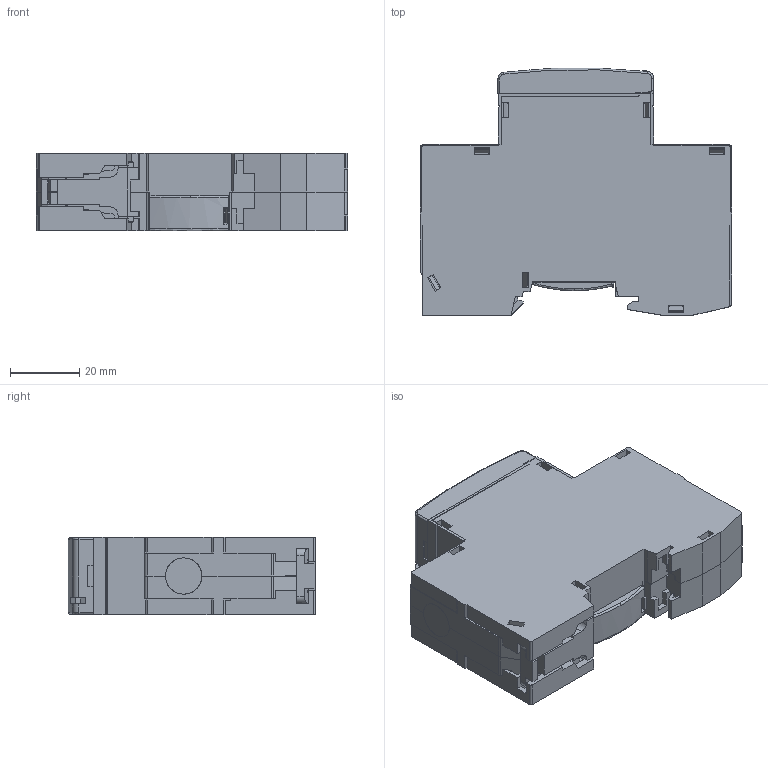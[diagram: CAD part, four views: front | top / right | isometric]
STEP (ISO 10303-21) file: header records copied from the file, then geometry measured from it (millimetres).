
FILE_DESCRIPTION (( 'STEP AP203' ), '1' );
FILE_NAME ('DF-P9.STEP', '2021-07-07T06:56:28', ( '' ), ( '' ), 'SwSTEP 2.0', 'SolidWorks 2018', '' );
FILE_SCHEMA (( 'CONFIG_CONTROL_DESIGN' ));
Length unit declared in the file: millimetre
Products named in the file (13): 8LD.253.283.STEP; 8LD.143.1054.STEP; 5LD.421.0009_________.STEP; 8LD.005.0087.STEP; 8LD.005.0085.STEP; 6LD.381.0010（DF-P9）.STEP; 8LD.322.1029.STEP; 8LD.779.0013.STEP; CNT-OQxx12x0xxxxG蚾饜极; 8LD.300.1296.STEP; 8LD.321.1002.STEP; dinkle_ech350r-02p.STEP; DF-P9
Assembly tree (16 placements, depth 4):
  DF-P9
    6LD.381.0010（DF-P9）.STEP
      5LD.421.0009_________.STEP
        8LD.321.1002.STEP  x3
        8LD.300.1296.STEP
        8LD.322.1029.STEP
        8LD.143.1054.STEP
        8LD.253.283.STEP  x3
        dinkle_ech350r-02p.STEP
      8LD.005.0085.STEP
      8LD.005.0087.STEP
      8LD.779.0013.STEP
    CNT-OQxx12x0xxxxG蚾饜极
Bounding box: 90 x 71.59 x 22.5 mm (x, y, z)
Volume: 32560 mm3; surface area: 47736.6 mm2
Topology: 17 solids, 17 shells, 1759 faces, 5041 edges, 3306 vertices
Faces by surface type: plane 1478, cylinder 219, cone 27, torus 18, bspline 17
Entity records: 55859 total; most frequent: CARTESIAN_POINT 10416, ORIENTED_EDGE 9626, DIRECTION 8489, EDGE_CURVE 4813, VECTOR 4245, LINE 4245, VERTEX_POINT 3158, AXIS2_PLACEMENT_3D 2122
